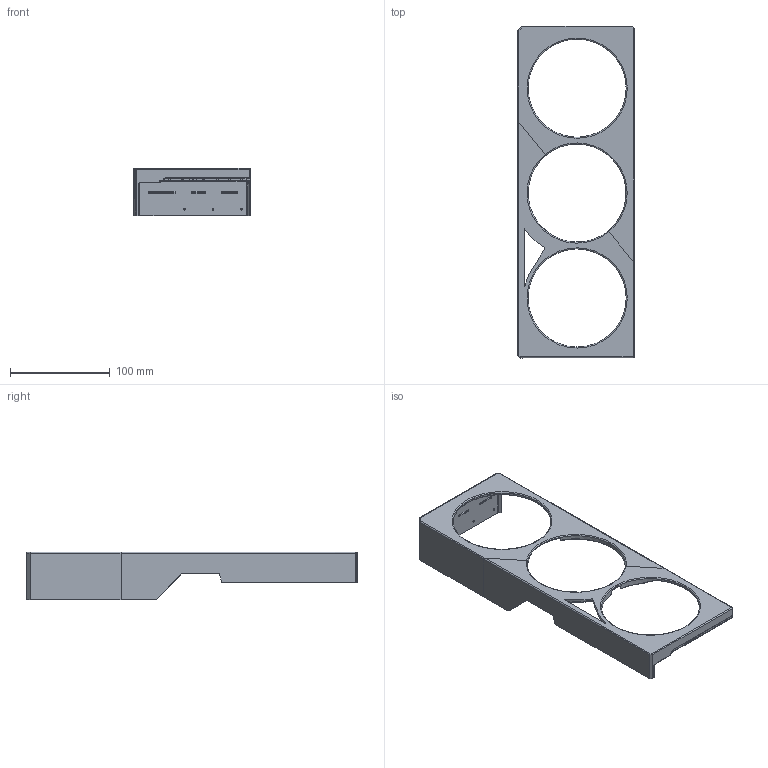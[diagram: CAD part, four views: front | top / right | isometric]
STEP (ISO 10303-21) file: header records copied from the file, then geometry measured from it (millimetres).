
FILE_DESCRIPTION((''),'2;1');
FILE_NAME('F332_MAKER_COVER_V2','2025-04-23T13:55:40',('Kate'),(''),'CREO PARAMETRIC BY PTC INC, 2021304','CREO PARAMETRIC BY PTC INC, 2021304','');
FILE_SCHEMA(('AUTOMOTIVE_DESIGN { 1 0 10303 214 1 1 1 1 }'));
Length unit declared in the file: millimetre
Products named in the file (1): F332_MAKER_COVER_V2
Bounding box: 116.2 x 332.2 x 47.5 mm (x, y, z)
Volume: 82180.5 mm3; surface area: 81936.3 mm2
Topology: 2 solids, 2 shells, 554 faces, 1521 edges, 979 vertices
Faces by surface type: plane 244, cylinder 96, cone 73, bspline 73, torus 44, revolution 8, extrusion 8, sphere 8
Entity records: 26174 total; most frequent: CARTESIAN_POINT 7534, ORIENTED_EDGE 3042, DIRECTION 2436, PRESENTATION_STYLE_ASSIGNMENT 1523, STYLED_ITEM 1523, CURVE_STYLE 1521, EDGE_CURVE 1521, VERTEX_POINT 979
